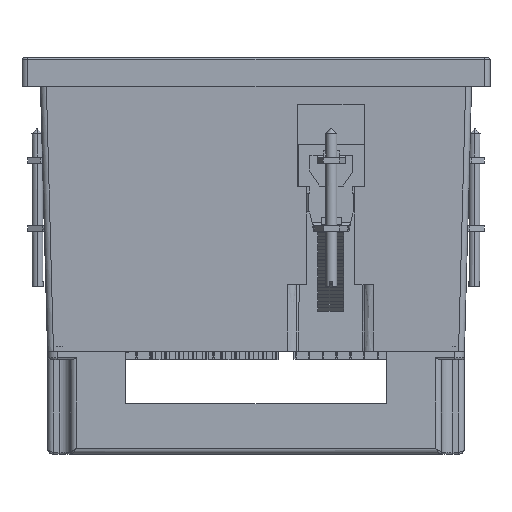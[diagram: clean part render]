
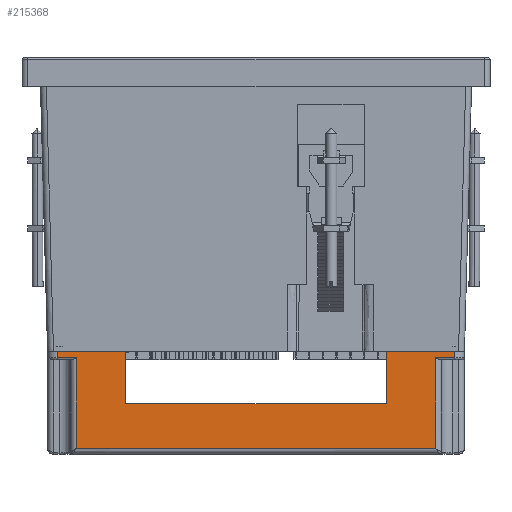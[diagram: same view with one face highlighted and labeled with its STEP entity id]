
A CAD part, front view. The second image highlights one B-rep face of the part: STEP entity #215368.
In plain terms, the highlighted planar face has unit normal (0, -1, 0) as drawn and (1, 0, 0) by its records, which use the part's own axes.
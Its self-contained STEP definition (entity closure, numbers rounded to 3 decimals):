
#817 = VECTOR ( 'NONE', #124494, 1000. ) ;
#2024 = ORIENTED_EDGE ( 'NONE', *, *, #73645, .T. ) ;
#2920 = CARTESIAN_POINT ( 'NONE',  ( 53., 45.668, 26.2 ) ) ;
#5651 = DIRECTION ( 'NONE',  ( 0., 0., -1. ) ) ;
#5723 = CARTESIAN_POINT ( 'NONE',  ( 53., -45.668, 1.66 ) ) ;
#11111 = VECTOR ( 'NONE', #47764, 1000. ) ;
#11773 = ORIENTED_EDGE ( 'NONE', *, *, #173509, .T. ) ;
#13923 = VECTOR ( 'NONE', #18591, 1000. ) ;
#18591 = DIRECTION ( 'NONE',  ( 0., 0., 1. ) ) ;
#18645 = ORIENTED_EDGE ( 'NONE', *, *, #181120, .T. ) ;
#19246 = EDGE_CURVE ( 'NONE', #76681, #226891, #82069, .T. ) ;
#21409 = CARTESIAN_POINT ( 'NONE',  ( 53., 50.5, 1.66 ) ) ;
#21993 = LINE ( 'NONE', #186218, #140240 ) ;
#23615 = VERTEX_POINT ( 'NONE', #5723 ) ;
#27414 = VERTEX_POINT ( 'NONE', #58192 ) ;
#28568 = ORIENTED_EDGE ( 'NONE', *, *, #126798, .T. ) ;
#28612 = LINE ( 'NONE', #170144, #11111 ) ;
#30361 = VECTOR ( 'NONE', #60150, 1000. ) ;
#31048 = ORIENTED_EDGE ( 'NONE', *, *, #158990, .F. ) ;
#31644 = FACE_OUTER_BOUND ( 'NONE', #223111, .T. ) ;
#31684 = CARTESIAN_POINT ( 'NONE',  ( 53., -45.668, 26.2 ) ) ;
#32795 = CARTESIAN_POINT ( 'NONE',  ( 53., -33.15, 0. ) ) ;
#43337 = VERTEX_POINT ( 'NONE', #197390 ) ;
#47256 = VECTOR ( 'NONE', #93224, 1000. ) ;
#47764 = DIRECTION ( 'NONE',  ( 0., 0., -1. ) ) ;
#49218 = CARTESIAN_POINT ( 'NONE',  ( 53., 33.15, 0. ) ) ;
#49485 = AXIS2_PLACEMENT_3D ( 'NONE', #71053, #144161, #121437 ) ;
#49530 = VERTEX_POINT ( 'NONE', #109532 ) ;
#54339 = DIRECTION ( 'NONE',  ( 0., 0., -1. ) ) ;
#54895 = LINE ( 'NONE', #203564, #109071 ) ;
#58192 = CARTESIAN_POINT ( 'NONE',  ( 53., -50.5, 1.66 ) ) ;
#60150 = DIRECTION ( 'NONE',  ( 0., -1., 0. ) ) ;
#64260 = CARTESIAN_POINT ( 'NONE',  ( 53., -33.15, 13.4 ) ) ;
#64589 = VERTEX_POINT ( 'NONE', #166867 ) ;
#65614 = CARTESIAN_POINT ( 'NONE',  ( 53., 45.668, 24.7 ) ) ;
#68330 = EDGE_CURVE ( 'NONE', #184700, #147544, #54895, .T. ) ;
#69399 = LINE ( 'NONE', #215718, #817 ) ;
#71053 = CARTESIAN_POINT ( 'NONE',  ( 53., 50.5, 26.2 ) ) ;
#73645 = EDGE_CURVE ( 'NONE', #211794, #49530, #79284, .T. ) ;
#76681 = VERTEX_POINT ( 'NONE', #49218 ) ;
#79284 = LINE ( 'NONE', #114073, #30361 ) ;
#82069 = LINE ( 'NONE', #228437, #139527 ) ;
#82959 = DIRECTION ( 'NONE',  ( 0., -1., 0. ) ) ;
#90644 = EDGE_CURVE ( 'NONE', #192293, #43337, #100968, .T. ) ;
#90852 = CARTESIAN_POINT ( 'NONE',  ( 53., 50.5, 0. ) ) ;
#93216 = DIRECTION ( 'NONE',  ( 0., -1., 0. ) ) ;
#93224 = DIRECTION ( 'NONE',  ( 0., 0., 1. ) ) ;
#100968 = LINE ( 'NONE', #159738, #110492 ) ;
#101156 = EDGE_CURVE ( 'NONE', #43337, #23615, #108286, .T. ) ;
#106226 = CARTESIAN_POINT ( 'NONE',  ( 53., -33.15, 13.4 ) ) ;
#106767 = VERTEX_POINT ( 'NONE', #32795 ) ;
#107695 = DIRECTION ( 'NONE',  ( 0., 1., 0. ) ) ;
#108286 = LINE ( 'NONE', #31684, #166962 ) ;
#108881 = LINE ( 'NONE', #90852, #111271 ) ;
#109071 = VECTOR ( 'NONE', #93216, 1000. ) ;
#109532 = CARTESIAN_POINT ( 'NONE',  ( 53., 45.668, 1.66 ) ) ;
#109664 = ORIENTED_EDGE ( 'NONE', *, *, #68330, .F. ) ;
#110492 = VECTOR ( 'NONE', #82959, 1000. ) ;
#111271 = VECTOR ( 'NONE', #107695, 1000. ) ;
#112037 = ORIENTED_EDGE ( 'NONE', *, *, #101156, .T. ) ;
#112086 = ORIENTED_EDGE ( 'NONE', *, *, #19246, .T. ) ;
#112352 = LINE ( 'NONE', #200056, #47256 ) ;
#113417 = EDGE_CURVE ( 'NONE', #211794, #226891, #28612, .T. ) ;
#114073 = CARTESIAN_POINT ( 'NONE',  ( 53., 45.668, 1.66 ) ) ;
#120633 = ORIENTED_EDGE ( 'NONE', *, *, #113417, .F. ) ;
#121437 = DIRECTION ( 'NONE',  ( 0., -1., 0. ) ) ;
#124494 = DIRECTION ( 'NONE',  ( 0., 0., -1. ) ) ;
#126798 = EDGE_CURVE ( 'NONE', #23615, #27414, #21993, .T. ) ;
#133145 = EDGE_CURVE ( 'NONE', #64589, #106767, #108881, .T. ) ;
#134507 = DIRECTION ( 'NONE',  ( 0., -1., 0. ) ) ;
#137232 = DIRECTION ( 'NONE',  ( 0., 1., 0. ) ) ;
#139527 = VECTOR ( 'NONE', #137232, 1000. ) ;
#140240 = VECTOR ( 'NONE', #134507, 1000. ) ;
#142336 = CARTESIAN_POINT ( 'NONE',  ( 53., 50.5, 0. ) ) ;
#144161 = DIRECTION ( 'NONE',  ( -1., 0., 0. ) ) ;
#146820 = EDGE_CURVE ( 'NONE', #76681, #184700, #112352, .T. ) ;
#147544 = VERTEX_POINT ( 'NONE', #106226 ) ;
#155235 = ORIENTED_EDGE ( 'NONE', *, *, #146820, .F. ) ;
#158990 = EDGE_CURVE ( 'NONE', #147544, #106767, #208243, .T. ) ;
#159738 = CARTESIAN_POINT ( 'NONE',  ( 53., 50.5, 24.7 ) ) ;
#160085 = LINE ( 'NONE', #2920, #13923 ) ;
#166867 = CARTESIAN_POINT ( 'NONE',  ( 53., -50.5, 0. ) ) ;
#166962 = VECTOR ( 'NONE', #54339, 1000. ) ;
#170144 = CARTESIAN_POINT ( 'NONE',  ( 53., 50.5, 26.2 ) ) ;
#173509 = EDGE_CURVE ( 'NONE', #27414, #64589, #69399, .T. ) ;
#181120 = EDGE_CURVE ( 'NONE', #49530, #192293, #160085, .T. ) ;
#184700 = VERTEX_POINT ( 'NONE', #227844 ) ;
#186218 = CARTESIAN_POINT ( 'NONE',  ( 53., -50.5, 1.66 ) ) ;
#192293 = VERTEX_POINT ( 'NONE', #65614 ) ;
#192827 = VECTOR ( 'NONE', #5651, 1000. ) ;
#197390 = CARTESIAN_POINT ( 'NONE',  ( 53., -45.668, 24.7 ) ) ;
#200056 = CARTESIAN_POINT ( 'NONE',  ( 53., 33.15, 13.4 ) ) ;
#203564 = CARTESIAN_POINT ( 'NONE',  ( 53., -33.15, 13.4 ) ) ;
#208243 = LINE ( 'NONE', #64260, #192827 ) ;
#211794 = VERTEX_POINT ( 'NONE', #21409 ) ;
#211887 = ORIENTED_EDGE ( 'NONE', *, *, #133145, .T. ) ;
#215368 = ADVANCED_FACE ( 'NONE', ( #31644 ), #235360, .F. ) ;
#215718 = CARTESIAN_POINT ( 'NONE',  ( 53., -50.5, 26.2 ) ) ;
#223111 = EDGE_LOOP ( 'NONE', ( #112037, #28568, #11773, #211887, #31048, #109664, #155235, #112086, #120633, #2024, #18645, #236511 ) ) ;
#226891 = VERTEX_POINT ( 'NONE', #142336 ) ;
#227844 = CARTESIAN_POINT ( 'NONE',  ( 53., 33.15, 13.4 ) ) ;
#228437 = CARTESIAN_POINT ( 'NONE',  ( 53., 50.5, 0. ) ) ;
#235360 = PLANE ( 'NONE',  #49485 ) ;
#236511 = ORIENTED_EDGE ( 'NONE', *, *, #90644, .T. ) ;
